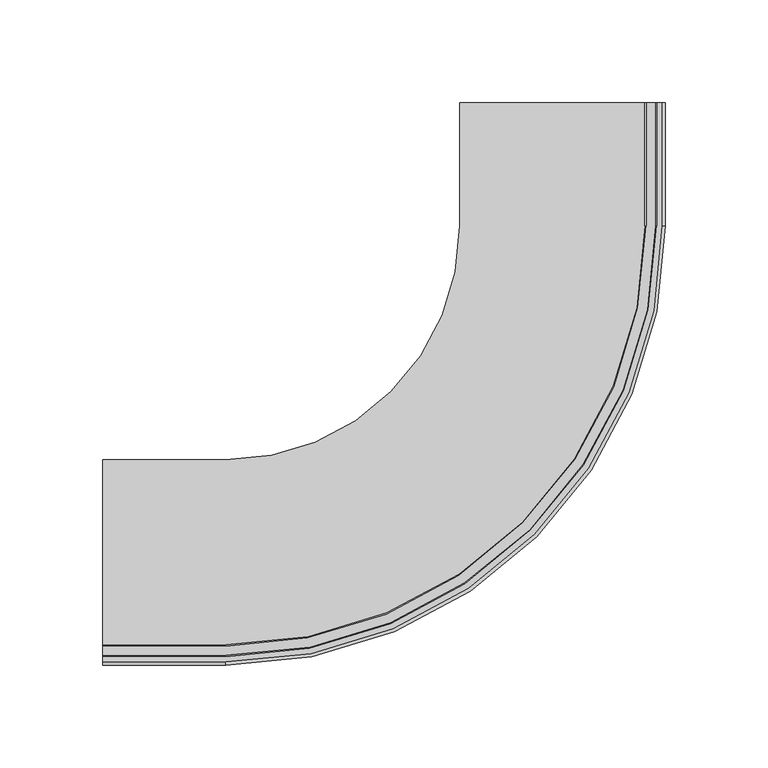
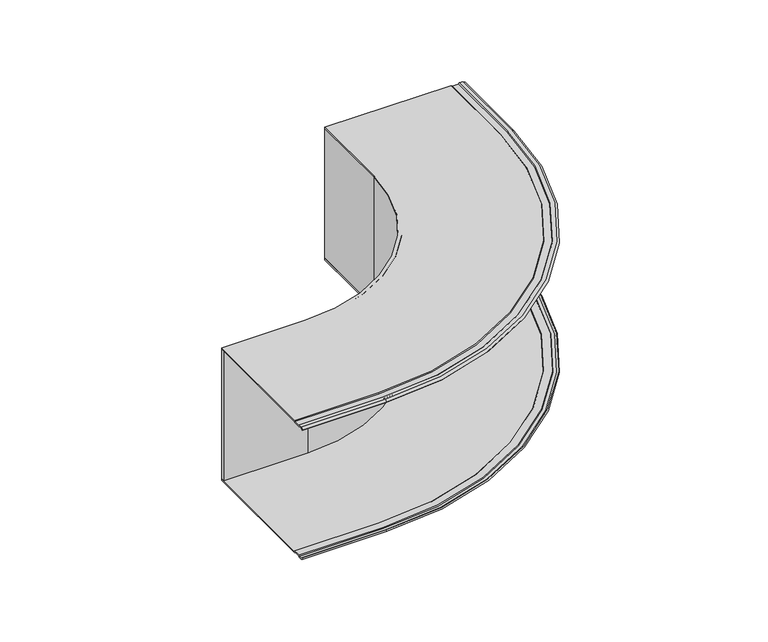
"""IFC4 building model written with IfcOpenShell, lengths in millimetres: cable carrier fitting geometry, CXERC_Vertical_Outside_Bend-Basortray : Basortray CXERC-GS."""

from ifc_helpers import new_model, si_unit, point, frame, frame_2d, origin, place, context, project, spatial, polyline, circle_curve, trimmed, segment, composite_curve, outline, extrude, source, transform, mapped, element, save
from ifc_brep_helpers import plane_surface, revolved_surface, advanced_brep


def cable_carrier_fitting_2e4e60a8(model_context):
    return source(origin(), model_context, "Body", "SolidModel", [
        advanced_brep(
        [(40.0, 224.0, 50.0), (40.6279591, 224.0, 49.3720409), (45.1162288, 224.0, 49.3720409), (45.7441879, 224.0, 50.0), (48.3605738, 224.0, 50.0), (50.0, 224.0, 48.8520614), (49.4264236, 224.0, 48.0329093), (48.045275, 224.0, 49.0), (46.1584014, 224.0, 49.0), (45.5304423, 224.0, 48.3720409), (40.2137455, 224.0, 48.3720409), (39.5857864, 224.0, 49.0), (-50.0, 224.0, 49.0), (-50.0, 224.0, 50.0), (40.0, 164.0, 50.0), (40.6279591, 164.0, 49.3720409), (-164.0, -40.6279591, 49.3720409), (-224.0, -40.6279591, 49.3720409), (-224.0, -45.1162288, 49.3720409), (-164.0, -45.1162288, 49.3720409), (45.1162288, 164.0, 49.3720409), (45.7441879, 164.0, 50.0), (-164.0, -45.7441879, 50.0), (-224.0, -45.7441879, 50.0), (-224.0, -48.3605738, 50.0), (-164.0, -48.3605738, 50.0), (48.3605738, 164.0, 50.0), (50.0, 164.0, 48.8520614), (49.4264236, 164.0, 48.0329093), (48.045275, 164.0, 49.0), (-164.0, -48.045275, 49.0), (-224.0, -48.045275, 49.0), (-224.0, -46.1584014, 49.0), (-164.0, -46.1584014, 49.0), (46.1584014, 164.0, 49.0), (45.5304423, 164.0, 48.3720409), (-164.0, -45.5304423, 48.3720409), (-224.0, -45.5304423, 48.3720409), (-224.0, -40.2137455, 48.3720409), (-164.0, -40.2137455, 48.3720409), (40.2137455, 164.0, 48.3720409), (39.5857864, 164.0, 49.0), (-164.0, -39.5857864, 49.0), (-224.0, -39.5857864, 49.0), (-224.0, 50.0, 49.0), (-164.0, 50.0, 49.0), (-50.0, 164.0, 49.0), (-50.0, 164.0, 50.0), (-164.0, 50.0, 50.0), (-224.0, 50.0, 50.0), (-224.0, -40.0, 50.0), (-164.0, -40.0, 50.0), (-164.0, -50.0, 48.8520614), (-164.0, -49.4264236, 48.0329093), (-224.0, -49.4264236, 48.0329093), (-224.0, -50.0, 48.8520614)],
        [
            (0, 1),
            (1, 2),
            (2, 3),
            (3, 4),
            (4, 5),
            (5, 6),
            (6, 7),
            (7, 8),
            (8, 9),
            (9, 10),
            (10, 11),
            (11, 12),
            (12, 13),
            (13, 0),
            (0, 14),
            (14, 15),
            (15, 1),
            (15, 16, circle_curve(frame((-164.0, 164.0, 49.3720409), z_axis=(0.0, 0.0, -1.0), x_axis=(1.0, 0.0, 0.0)), 204.6279591)),
            (16, 17),
            (17, 18),
            (18, 19),
            (19, 20, circle_curve(frame((-164.0, 164.0, 49.3720409), z_axis=(0.0, 0.0, 1.0), x_axis=(1.0, 0.0, 0.0)), 209.1162288)),
            (20, 2),
            (20, 21),
            (21, 3),
            (21, 22, circle_curve(frame((-164.0, 164.0, 50.0), z_axis=(0.0, 0.0, -1.0), x_axis=(1.0, 0.0, 0.0)), 209.7441879)),
            (22, 23),
            (23, 24),
            (24, 25),
            (25, 26, circle_curve(frame((-164.0, 164.0, 50.0), z_axis=(0.0, 0.0, 1.0), x_axis=(1.0, 0.0, 0.0)), 212.3605738)),
            (26, 4),
            (26, 27),
            (27, 5),
            (27, 28),
            (28, 6),
            (28, 29),
            (29, 7),
            (29, 30, circle_curve(frame((-164.0, 164.0, 49.0), z_axis=(0.0, 0.0, -1.0), x_axis=(1.0, 0.0, 0.0)), 212.045275)),
            (30, 31),
            (31, 32),
            (32, 33),
            (33, 34, circle_curve(frame((-164.0, 164.0, 49.0), z_axis=(0.0, 0.0, 1.0), x_axis=(1.0, 0.0, 0.0)), 210.1584014)),
            (34, 8),
            (34, 35),
            (35, 9),
            (35, 36, circle_curve(frame((-164.0, 164.0, 48.3720409), z_axis=(0.0, 0.0, -1.0), x_axis=(1.0, 0.0, 0.0)), 209.5304423)),
            (36, 37),
            (37, 38),
            (38, 39),
            (39, 40, circle_curve(frame((-164.0, 164.0, 48.3720409), z_axis=(0.0, 0.0, 1.0), x_axis=(1.0, 0.0, 0.0)), 204.2137455)),
            (40, 10),
            (40, 41),
            (41, 11),
            (41, 42, circle_curve(frame((-164.0, 164.0, 49.0), z_axis=(0.0, 0.0, -1.0), x_axis=(1.0, 0.0, 0.0)), 203.5857864)),
            (42, 43),
            (43, 44),
            (44, 45),
            (45, 46, circle_curve(frame((-164.0, 164.0, 49.0), z_axis=(0.0, 0.0, 1.0), x_axis=(1.0, 0.0, 0.0)), 114.0)),
            (46, 12),
            (46, 47),
            (47, 13),
            (47, 48, circle_curve(frame((-164.0, 164.0, 50.0), z_axis=(0.0, 0.0, -1.0), x_axis=(1.0, 0.0, 0.0)), 114.0)),
            (48, 49),
            (49, 50),
            (50, 51),
            (51, 14, circle_curve(frame((-164.0, 164.0, 50.0), z_axis=(0.0, 0.0, 1.0), x_axis=(1.0, 0.0, 0.0)), 204.0)),
            (51, 16),
            (19, 22),
            (52, 27, circle_curve(frame((-164.0, 164.0, 48.8520614), z_axis=(0.0, 0.0, 1.0), x_axis=(1.0, 0.0, 0.0)), 214.0)),
            (25, 52),
            (53, 28, circle_curve(frame((-164.0, 164.0, 48.0329093), z_axis=(0.0, 0.0, 1.0), x_axis=(1.0, 0.0, 0.0)), 213.4264236)),
            (52, 53),
            (53, 30),
            (33, 36),
            (39, 42),
            (45, 48),
            (49, 44),
            (43, 38),
            (37, 32),
            (31, 54),
            (54, 55),
            (55, 24),
            (23, 18),
            (17, 50),
            (55, 52),
            (54, 53),
        ],
        [
            plane_surface(frame((-50.0, 224.0, 0.0), z_axis=(0.0, 1.0, 0.0), x_axis=(0.0, 0.0, 1.0))),
            plane_surface(frame((40.0, 224.0, 50.0), z_axis=(0.7071067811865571, 0.0, 0.707106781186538), x_axis=(0.0, -1.0, 0.0))),
            plane_surface(frame((40.6279591, 224.0, 49.3720409), z_axis=(0.0, 0.0, 1.0), x_axis=(0.0, -1.0, 0.0))),
            plane_surface(frame((45.1162288, 224.0, 49.3720409), z_axis=(-0.7071067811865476, 0.0, 0.7071067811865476), x_axis=(0.0, -1.0, 0.0))),
            plane_surface(frame((45.7441879, 224.0, 50.0), z_axis=(0.0, 0.0, 1.0), x_axis=(0.0, -1.0, 0.0))),
            plane_surface(frame((48.3605738, 224.0, 50.0), z_axis=(0.5735764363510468, 0.0, 0.8191520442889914), x_axis=(0.0, -1.0, 0.0))),
            plane_surface(frame((50.0, 224.0, 48.8520614), z_axis=(0.819152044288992, 0.0, -0.5735764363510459), x_axis=(0.0, -1.0, 0.0))),
            plane_surface(frame((49.4264236, 224.0, 48.0329093), z_axis=(-0.5735764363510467, 0.0, -0.8191520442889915), x_axis=(0.0, -1.0, 0.0))),
            plane_surface(frame((48.045275, 224.0, 49.0), z_axis=(0.0, 0.0, -1.0), x_axis=(0.0, -1.0, 0.0))),
            plane_surface(frame((46.1584014, 224.0, 49.0), z_axis=(0.7071067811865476, 0.0, -0.7071067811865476), x_axis=(0.0, -1.0, 0.0))),
            plane_surface(frame((45.5304423, 224.0, 48.3720409), z_axis=(0.0, 0.0, -1.0), x_axis=(0.0, -1.0, 0.0))),
            plane_surface(frame((40.2137455, 224.0, 48.3720409), z_axis=(-0.7071067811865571, 0.0, -0.707106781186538), x_axis=(0.0, -1.0, 0.0))),
            plane_surface(frame((39.5857864, 224.0, 49.0), z_axis=(0.0, 0.0, -1.0), x_axis=(0.0, -1.0, 0.0))),
            plane_surface(frame((-50.0, 224.0, 49.0), z_axis=(-1.0, 0.0, 0.0), x_axis=(0.0, -1.0, 0.0))),
            plane_surface(frame((-50.0, 224.0, 50.0), z_axis=(0.0, 0.0, 1.0), x_axis=(0.0, -1.0, 0.0))),
            revolved_surface(polyline([(40.0, 164.0, 50.0), (40.6279591, 164.0, 49.3720409)]), (-164.0, 164.0, 0.0), (0.0, 0.0, -1.0)),
            revolved_surface(polyline([(45.1162288, 164.0, 49.3720409), (45.7441879, 164.0, 50.0)]), (-164.0, 164.0, 0.0), (0.0, 0.0, -1.0)),
            revolved_surface(polyline([(48.3605738, 164.0, 50.0), (50.0, 164.0, 48.8520614)]), (-164.0, 164.0, 0.0), (0.0, 0.0, -1.0)),
            revolved_surface(polyline([(50.0, 164.0, 48.8520614), (49.4264236, 164.0, 48.0329093)]), (-164.0, 164.0, 0.0), (0.0, 0.0, -1.0)),
            revolved_surface(polyline([(49.4264236, 164.0, 48.0329093), (48.045275, 164.0, 49.0)]), (-164.0, 164.0, 0.0), (0.0, 0.0, -1.0)),
            revolved_surface(polyline([(46.1584014, 164.0, 49.0), (45.5304423, 164.0, 48.3720409)]), (-164.0, 164.0, 0.0), (0.0, 0.0, -1.0)),
            revolved_surface(polyline([(40.2137455, 164.0, 48.3720409), (39.5857864, 164.0, 49.0)]), (-164.0, 164.0, 0.0), (0.0, 0.0, -1.0)),
            revolved_surface(polyline([(-50.0, 164.0, 49.0), (-50.0, 164.0, 50.0)]), (-164.0, 164.0, 0.0), (0.0, 0.0, -1.0)),
            plane_surface(frame((-224.0, 50.0, 0.0), z_axis=(-1.0, 0.0, 0.0), x_axis=(0.0, 0.0, 1.0))),
            plane_surface(frame((-164.0, -40.0, 50.0), z_axis=(0.0, -0.7071067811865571, 0.707106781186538), x_axis=(-1.0, 0.0, 0.0))),
            plane_surface(frame((-164.0, -45.1162288, 49.3720409), z_axis=(0.0, 0.7071067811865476, 0.7071067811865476), x_axis=(-1.0, 0.0, 0.0))),
            plane_surface(frame((-164.0, -48.3605738, 50.0), z_axis=(0.0, -0.5735764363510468, 0.8191520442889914), x_axis=(-1.0, 0.0, 0.0))),
            plane_surface(frame((-164.0, -50.0, 48.8520614), z_axis=(0.0, -0.819152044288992, -0.5735764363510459), x_axis=(-1.0, 0.0, 0.0))),
            plane_surface(frame((-164.0, -49.4264236, 48.0329093), z_axis=(0.0, 0.5735764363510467, -0.8191520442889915), x_axis=(-1.0, 0.0, 0.0))),
            plane_surface(frame((-164.0, -46.1584014, 49.0), z_axis=(0.0, -0.7071067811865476, -0.7071067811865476), x_axis=(-1.0, 0.0, 0.0))),
            plane_surface(frame((-164.0, -40.2137455, 48.3720409), z_axis=(0.0, 0.7071067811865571, -0.707106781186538), x_axis=(-1.0, 0.0, 0.0))),
            plane_surface(frame((-164.0, 50.0, 49.0), z_axis=(0.0, 1.0, 0.0), x_axis=(-1.0, 0.0, 0.0))),
        ],
        [
            (0, [[1, 2, 3, 4, 5, 6, 7, 8, 9, 10, 11, 12, 13, 14]]),
            (1, [[-1, 15, 16, 17]]),
            (2, [[-2, -17, 18, 19, 20, 21, 22, 23]]),
            (3, [[-3, -23, 24, 25]]),
            (4, [[-4, -25, 26, 27, 28, 29, 30, 31]]),
            (5, [[-5, -31, 32, 33]]),
            (6, [[-6, -33, 34, 35]]),
            (7, [[-7, -35, 36, 37]]),
            (8, [[-8, -37, 38, 39, 40, 41, 42, 43]]),
            (9, [[-9, -43, 44, 45]]),
            (10, [[-10, -45, 46, 47, 48, 49, 50, 51]]),
            (11, [[-11, -51, 52, 53]]),
            (12, [[-12, -53, 54, 55, 56, 57, 58, 59]]),
            (13, [[-13, -59, 60, 61]]),
            (14, [[-14, -61, 62, 63, 64, 65, 66, -15]]),
            (15, [[-18, -16, -66, 67]]),
            (16, [[-26, -24, -22, 68]]),
            (17, [[69, -32, -30, 70]]),
            (18, [[71, -34, -69, 72]]),
            (19, [[-38, -36, -71, 73]]),
            (20, [[-46, -44, -42, 74]]),
            (21, [[-54, -52, -50, 75]]),
            (22, [[-62, -60, -58, 76]]),
            (23, [[-64, 77, -56, 78, -48, 79, -40, 80, 81, 82, -28, 83, -20, 84]]),
            (24, [[-67, -65, -84, -19]]),
            (25, [[-68, -21, -83, -27]]),
            (26, [[-70, -29, -82, 85]]),
            (27, [[-72, -85, -81, 86]]),
            (28, [[-73, -86, -80, -39]]),
            (29, [[-74, -41, -79, -47]]),
            (30, [[-75, -49, -78, -55]]),
            (31, [[-76, -57, -77, -63]]),
        ],
    ),
        advanced_brep(
        [(40.0, 224.0, -50.0), (-50.0, 224.0, -50.0), (-50.0, 224.0, -49.0), (39.5857864, 224.0, -49.0), (40.2137455, 224.0, -48.3720409), (45.5304423, 224.0, -48.3720409), (46.1584014, 224.0, -49.0), (48.045275, 224.0, -49.0), (49.4264236, 224.0, -48.0329093), (50.0, 224.0, -48.8520614), (48.3605738, 224.0, -50.0), (45.7441879, 224.0, -50.0), (45.1162288, 224.0, -49.3720409), (40.6279591, 224.0, -49.3720409), (40.0, 164.0, -50.0), (-164.0, -40.0, -50.0), (-224.0, -40.0, -50.0), (-224.0, 50.0, -50.0), (-164.0, 50.0, -50.0), (-50.0, 164.0, -50.0), (-50.0, 164.0, -49.0), (-164.0, 50.0, -49.0), (-224.0, 50.0, -49.0), (-224.0, -39.5857864, -49.0), (-164.0, -39.5857864, -49.0), (39.5857864, 164.0, -49.0), (40.2137455, 164.0, -48.3720409), (-164.0, -40.2137455, -48.3720409), (-224.0, -40.2137455, -48.3720409), (-224.0, -45.5304423, -48.3720409), (-164.0, -45.5304423, -48.3720409), (45.5304423, 164.0, -48.3720409), (46.1584014, 164.0, -49.0), (-164.0, -46.1584014, -49.0), (-224.0, -46.1584014, -49.0), (-224.0, -48.045275, -49.0), (-164.0, -48.045275, -49.0), (48.045275, 164.0, -49.0), (49.4264236, 164.0, -48.0329093), (50.0, 164.0, -48.8520614), (48.3605738, 164.0, -50.0), (-164.0, -48.3605738, -50.0), (-224.0, -48.3605738, -50.0), (-224.0, -45.7441879, -50.0), (-164.0, -45.7441879, -50.0), (45.7441879, 164.0, -50.0), (45.1162288, 164.0, -49.3720409), (-164.0, -45.1162288, -49.3720409), (-224.0, -45.1162288, -49.3720409), (-224.0, -40.6279591, -49.3720409), (-164.0, -40.6279591, -49.3720409), (40.6279591, 164.0, -49.3720409), (-164.0, -49.4264236, -48.0329093), (-164.0, -50.0, -48.8520614), (-224.0, -50.0, -48.8520614), (-224.0, -49.4264236, -48.0329093)],
        [
            (0, 1),
            (1, 2),
            (2, 3),
            (3, 4),
            (4, 5),
            (5, 6),
            (6, 7),
            (7, 8),
            (8, 9),
            (9, 10),
            (10, 11),
            (11, 12),
            (12, 13),
            (13, 0),
            (0, 14),
            (14, 15, circle_curve(frame((-164.0, 164.0, -50.0), z_axis=(0.0, 0.0, -1.0), x_axis=(1.0, 0.0, 0.0)), 204.0)),
            (15, 16),
            (16, 17),
            (17, 18),
            (18, 19, circle_curve(frame((-164.0, 164.0, -50.0), z_axis=(0.0, 0.0, 1.0), x_axis=(1.0, 0.0, 0.0)), 114.0)),
            (19, 1),
            (19, 20),
            (20, 2),
            (20, 21, circle_curve(frame((-164.0, 164.0, -49.0), z_axis=(0.0, 0.0, -1.0), x_axis=(1.0, 0.0, 0.0)), 114.0)),
            (21, 22),
            (22, 23),
            (23, 24),
            (24, 25, circle_curve(frame((-164.0, 164.0, -49.0), z_axis=(0.0, 0.0, 1.0), x_axis=(1.0, 0.0, 0.0)), 203.5857864)),
            (25, 3),
            (25, 26),
            (26, 4),
            (26, 27, circle_curve(frame((-164.0, 164.0, -48.3720409), z_axis=(0.0, 0.0, -1.0), x_axis=(1.0, 0.0, 0.0)), 204.2137455)),
            (27, 28),
            (28, 29),
            (29, 30),
            (30, 31, circle_curve(frame((-164.0, 164.0, -48.3720409), z_axis=(0.0, 0.0, 1.0), x_axis=(1.0, 0.0, 0.0)), 209.5304423)),
            (31, 5),
            (31, 32),
            (32, 6),
            (32, 33, circle_curve(frame((-164.0, 164.0, -49.0), z_axis=(0.0, 0.0, -1.0), x_axis=(1.0, 0.0, 0.0)), 210.1584014)),
            (33, 34),
            (34, 35),
            (35, 36),
            (36, 37, circle_curve(frame((-164.0, 164.0, -49.0), z_axis=(0.0, 0.0, 1.0), x_axis=(1.0, 0.0, 0.0)), 212.045275)),
            (37, 7),
            (37, 38),
            (38, 8),
            (38, 39),
            (39, 9),
            (39, 40),
            (40, 10),
            (40, 41, circle_curve(frame((-164.0, 164.0, -50.0), z_axis=(0.0, 0.0, -1.0), x_axis=(1.0, 0.0, 0.0)), 212.3605738)),
            (41, 42),
            (42, 43),
            (43, 44),
            (44, 45, circle_curve(frame((-164.0, 164.0, -50.0), z_axis=(0.0, 0.0, 1.0), x_axis=(1.0, 0.0, 0.0)), 209.7441879)),
            (45, 11),
            (45, 46),
            (46, 12),
            (46, 47, circle_curve(frame((-164.0, 164.0, -49.3720409), z_axis=(0.0, 0.0, -1.0), x_axis=(1.0, 0.0, 0.0)), 209.1162288)),
            (47, 48),
            (48, 49),
            (49, 50),
            (50, 51, circle_curve(frame((-164.0, 164.0, -49.3720409), z_axis=(0.0, 0.0, 1.0), x_axis=(1.0, 0.0, 0.0)), 204.6279591)),
            (51, 13),
            (51, 14),
            (18, 21),
            (24, 27),
            (30, 33),
            (52, 38, circle_curve(frame((-164.0, 164.0, -48.0329093), z_axis=(0.0, 0.0, 1.0), x_axis=(1.0, 0.0, 0.0)), 213.4264236)),
            (36, 52),
            (53, 39, circle_curve(frame((-164.0, 164.0, -48.8520614), z_axis=(0.0, 0.0, 1.0), x_axis=(1.0, 0.0, 0.0)), 214.0)),
            (52, 53),
            (53, 41),
            (44, 47),
            (50, 15),
            (16, 49),
            (48, 43),
            (42, 54),
            (54, 55),
            (55, 35),
            (34, 29),
            (28, 23),
            (22, 17),
            (55, 52),
            (54, 53),
        ],
        [
            plane_surface(frame((-50.0, 224.0, 0.0), z_axis=(0.0, 1.0, 0.0), x_axis=(0.0, 0.0, 1.0))),
            plane_surface(frame((40.0, 224.0, -50.0), z_axis=(0.0, 0.0, -1.0), x_axis=(0.0, -1.0, 0.0))),
            plane_surface(frame((-50.0, 224.0, -50.0), z_axis=(-1.0, 0.0, 0.0), x_axis=(0.0, -1.0, 0.0))),
            plane_surface(frame((-50.0, 224.0, -49.0), z_axis=(0.0, 0.0, 1.0), x_axis=(0.0, -1.0, 0.0))),
            plane_surface(frame((39.5857864, 224.0, -49.0), z_axis=(-0.707106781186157, 0.0, 0.7071067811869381), x_axis=(0.0, -1.0, 0.0))),
            plane_surface(frame((40.2137455, 224.0, -48.3720409), z_axis=(0.0, 0.0, 1.0), x_axis=(0.0, -1.0, 0.0))),
            plane_surface(frame((45.5304423, 224.0, -48.3720409), z_axis=(0.7071067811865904, 0.0, 0.7071067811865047), x_axis=(0.0, -1.0, 0.0))),
            plane_surface(frame((46.1584014, 224.0, -49.0), z_axis=(0.0, 0.0, 1.0), x_axis=(0.0, -1.0, 0.0))),
            plane_surface(frame((48.045275, 224.0, -49.0), z_axis=(-0.5735764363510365, 0.0, 0.8191520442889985), x_axis=(0.0, -1.0, 0.0))),
            plane_surface(frame((49.4264236, 224.0, -48.0329093), z_axis=(0.8191520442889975, 0.0, 0.5735764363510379), x_axis=(0.0, -1.0, 0.0))),
            plane_surface(frame((50.0, 224.0, -48.8520614), z_axis=(0.5735764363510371, 0.0, -0.8191520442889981), x_axis=(0.0, -1.0, 0.0))),
            plane_surface(frame((48.3605738, 224.0, -50.0), z_axis=(0.0, 0.0, -1.0), x_axis=(0.0, -1.0, 0.0))),
            plane_surface(frame((45.7441879, 224.0, -50.0), z_axis=(-0.7071067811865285, 0.0, -0.7071067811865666), x_axis=(0.0, -1.0, 0.0))),
            plane_surface(frame((45.1162288, 224.0, -49.3720409), z_axis=(0.0, 0.0, -1.0), x_axis=(0.0, -1.0, 0.0))),
            plane_surface(frame((40.6279591, 224.0, -49.3720409), z_axis=(0.7071067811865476, 0.0, -0.7071067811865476), x_axis=(0.0, -1.0, 0.0))),
            revolved_surface(polyline([(-50.0, 164.0, -50.0), (-50.0, 164.0, -49.0)]), (-164.0, 164.0, 0.0), (0.0, 0.0, -1.0)),
            revolved_surface(polyline([(39.5857864, 164.0, -49.0), (40.2137455, 164.0, -48.3720409)]), (-164.0, 164.0, 0.0), (0.0, 0.0, -1.0)),
            revolved_surface(polyline([(45.5304423, 164.0, -48.3720409), (46.1584014, 164.0, -49.0)]), (-164.0, 164.0, 0.0), (0.0, 0.0, -1.0)),
            revolved_surface(polyline([(48.045275, 164.0, -49.0), (49.4264236, 164.0, -48.0329093)]), (-164.0, 164.0, 0.0), (0.0, 0.0, -1.0)),
            revolved_surface(polyline([(49.4264236, 164.0, -48.0329093), (50.0, 164.0, -48.8520614)]), (-164.0, 164.0, 0.0), (0.0, 0.0, -1.0)),
            revolved_surface(polyline([(50.0, 164.0, -48.8520614), (48.3605738, 164.0, -50.0)]), (-164.0, 164.0, 0.0), (0.0, 0.0, -1.0)),
            revolved_surface(polyline([(45.7441879, 164.0, -50.0), (45.1162288, 164.0, -49.3720409)]), (-164.0, 164.0, 0.0), (0.0, 0.0, -1.0)),
            revolved_surface(polyline([(40.6279591, 164.0, -49.3720409), (40.0, 164.0, -50.0)]), (-164.0, 164.0, 0.0), (0.0, 0.0, -1.0)),
            plane_surface(frame((-224.0, 50.0, 0.0), z_axis=(-1.0, 0.0, 0.0), x_axis=(0.0, 0.0, 1.0))),
            plane_surface(frame((-164.0, 50.0, -50.0), z_axis=(0.0, 1.0, 0.0), x_axis=(-1.0, 0.0, 0.0))),
            plane_surface(frame((-164.0, -39.5857864, -49.0), z_axis=(0.0, 0.707106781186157, 0.7071067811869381), x_axis=(-1.0, 0.0, 0.0))),
            plane_surface(frame((-164.0, -45.5304423, -48.3720409), z_axis=(0.0, -0.7071067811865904, 0.7071067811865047), x_axis=(-1.0, 0.0, 0.0))),
            plane_surface(frame((-164.0, -48.045275, -49.0), z_axis=(0.0, 0.5735764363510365, 0.8191520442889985), x_axis=(-1.0, 0.0, 0.0))),
            plane_surface(frame((-164.0, -49.4264236, -48.0329093), z_axis=(0.0, -0.8191520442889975, 0.5735764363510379), x_axis=(-1.0, 0.0, 0.0))),
            plane_surface(frame((-164.0, -50.0, -48.8520614), z_axis=(0.0, -0.5735764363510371, -0.8191520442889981), x_axis=(-1.0, 0.0, 0.0))),
            plane_surface(frame((-164.0, -45.7441879, -50.0), z_axis=(0.0, 0.7071067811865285, -0.7071067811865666), x_axis=(-1.0, 0.0, 0.0))),
            plane_surface(frame((-164.0, -40.6279591, -49.3720409), z_axis=(0.0, -0.7071067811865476, -0.7071067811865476), x_axis=(-1.0, 0.0, 0.0))),
        ],
        [
            (0, [[1, 2, 3, 4, 5, 6, 7, 8, 9, 10, 11, 12, 13, 14]]),
            (1, [[-1, 15, 16, 17, 18, 19, 20, 21]]),
            (2, [[-2, -21, 22, 23]]),
            (3, [[-3, -23, 24, 25, 26, 27, 28, 29]]),
            (4, [[-4, -29, 30, 31]]),
            (5, [[-5, -31, 32, 33, 34, 35, 36, 37]]),
            (6, [[-6, -37, 38, 39]]),
            (7, [[-7, -39, 40, 41, 42, 43, 44, 45]]),
            (8, [[-8, -45, 46, 47]]),
            (9, [[-9, -47, 48, 49]]),
            (10, [[-10, -49, 50, 51]]),
            (11, [[-11, -51, 52, 53, 54, 55, 56, 57]]),
            (12, [[-12, -57, 58, 59]]),
            (13, [[-13, -59, 60, 61, 62, 63, 64, 65]]),
            (14, [[-14, -65, 66, -15]]),
            (15, [[-24, -22, -20, 67]]),
            (16, [[-32, -30, -28, 68]]),
            (17, [[-40, -38, -36, 69]]),
            (18, [[70, -46, -44, 71]]),
            (19, [[72, -48, -70, 73]]),
            (20, [[-52, -50, -72, 74]]),
            (21, [[-60, -58, -56, 75]]),
            (22, [[-16, -66, -64, 76]]),
            (23, [[77, -62, 78, -54, 79, 80, 81, -42, 82, -34, 83, -26, 84, -18]]),
            (24, [[-67, -19, -84, -25]]),
            (25, [[-68, -27, -83, -33]]),
            (26, [[-69, -35, -82, -41]]),
            (27, [[-71, -43, -81, 85]]),
            (28, [[-73, -85, -80, 86]]),
            (29, [[-74, -86, -79, -53]]),
            (30, [[-75, -55, -78, -61]]),
            (31, [[-76, -63, -77, -17]]),
        ],
    ),
        extrude(outline(composite_curve([segment(polyline([(-50.0, 224.0), (-47.46, 224.0), (-47.46, 164.0)]), True, "CONTINUOUS"), segment(trimmed(circle_curve(frame_2d((-164.0, 164.0)), 116.54), [point((-47.46, 164.0))], [point((-164.0, 47.46))], False, "CARTESIAN"), True, "CONTINUOUS"), segment(polyline([(-164.0, 47.46), (-224.0, 47.46), (-224.0, 50.0), (-164.0, 50.0)]), True, "CONTINUOUS"), segment(trimmed(circle_curve(frame_2d((-164.0, 164.0)), 114.0), [point((-164.0, 50.0))], [point((-50.0, 164.0))], True, "CARTESIAN"), True, "CONTINUOUS"), segment(polyline([(-50.0, 164.0), (-50.0, 224.0)]), True, "CONTINUOUS")], self_intersect=False)), frame((0.0, 0.0, -50.0), z_axis=(0.0, 0.0, 1.0), x_axis=(1.0, 0.0, 0.0)), (0.0, 0.0, 1.0), 100.0),
    ])


if __name__ == "__main__":
    model = new_model("IFC4")
    model_context = context("Model", 3, world=origin())
    ifc_project = project(units=[si_unit("LENGTHUNIT", "METRE", prefix="MILLI")], contexts=[model_context])
    site = spatial("IfcSite", under=ifc_project)
    building = spatial("IfcBuilding", under=site)
    placement = place(None, origin())
    cable_carrier_fitting_shape = cable_carrier_fitting_2e4e60a8(model_context)
    element("IfcCableCarrierFitting", 1, ObjectType="CXERC_Vertical_Outside_Bend-Basortray : Basortray CXERC-GS", at=placement, inside=building, context=model_context, shape_type="MappedRepresentation", body=[
        mapped(cable_carrier_fitting_shape, transform((0.0, 0.0, 0.0), x_axis=(1.0, 0.0, 0.0), y_axis=(0.0, 1.0, 0.0), z_axis=(0.0, 0.0, 1.0))),
    ])
    save(model, "model.ifc")
